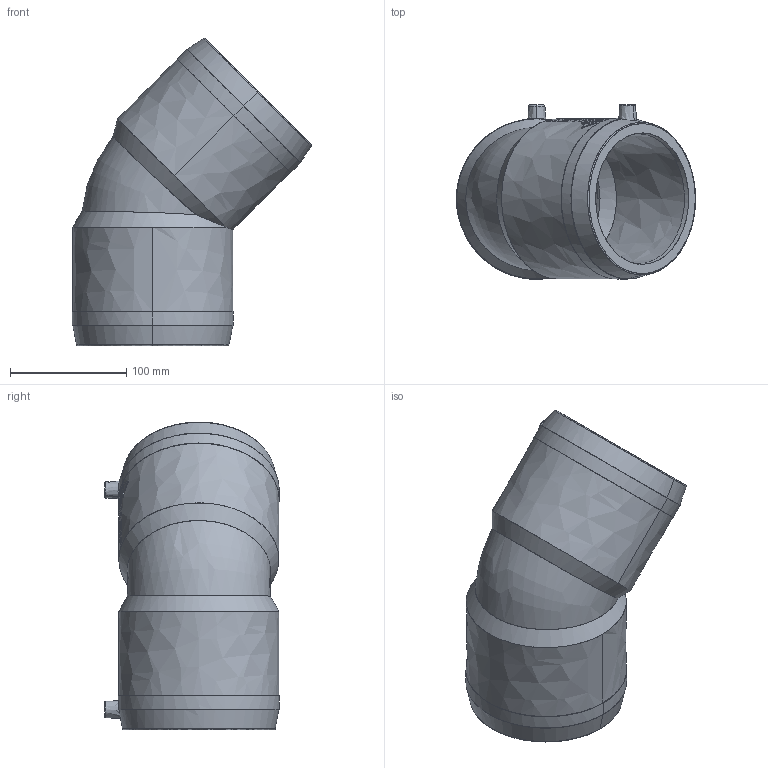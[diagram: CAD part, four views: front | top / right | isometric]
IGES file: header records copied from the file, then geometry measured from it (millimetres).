
Start section:  PTC IGES file: w45_d110_01.igs
Global section: file name: w45_d110_01.igs; native system: Pro/ENGINEER by Parametric Technology Corporation; preprocessor: 2011490; author: mtunjic; organization: Unknown; date: 20130812.112720; units: millimetre
Bounding box: 205.47 x 149.85 x 264.42 mm (x, y, z)
Surface area: 203955.1 mm2 (no closed solid volume)
Topology: 0 solids, 0 shells, 179 faces, 924 edges, 924 vertices
Faces by surface type: bspline 179
